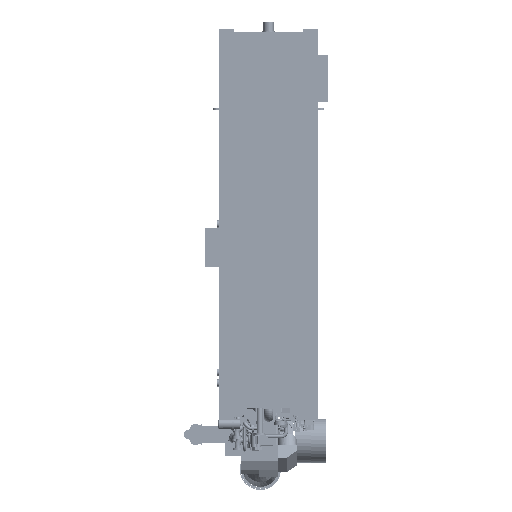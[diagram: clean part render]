
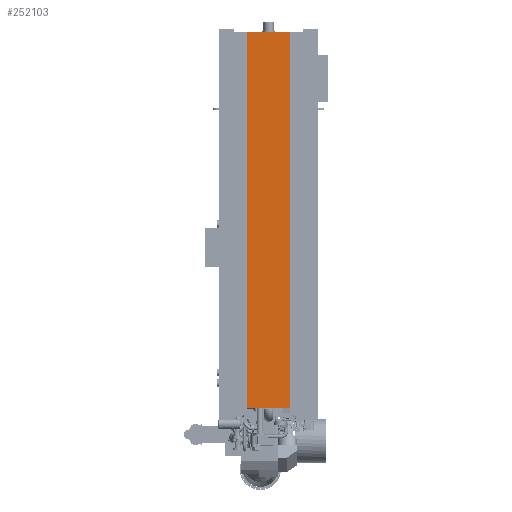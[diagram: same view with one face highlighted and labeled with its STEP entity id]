
A CAD part, front view. The second image highlights one B-rep face of the part: STEP entity #252103.
In plain terms, the highlighted planar face has unit normal (0, -1, 0).
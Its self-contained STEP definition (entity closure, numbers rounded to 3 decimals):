
#246727=DIRECTION('',(1.,0.,0.));
#246728=VECTOR('',#246727,1000.);
#246729=CARTESIAN_POINT('',(-500.,-1775.,4472.));
#246730=LINE('',#246729,#246728);
#247117=DIRECTION('',(1.,0.,0.));
#247118=VECTOR('',#247117,1000.);
#247119=CARTESIAN_POINT('',(-500.,-1775.,-4248.));
#247120=LINE('',#247119,#247118);
#247121=DIRECTION('',(0.,0.,1.));
#247122=VECTOR('',#247121,8720.);
#247123=CARTESIAN_POINT('',(-500.,-1775.,-4248.));
#247124=LINE('',#247123,#247122);
#247125=DIRECTION('',(0.,0.,-1.));
#247126=VECTOR('',#247125,8720.);
#247127=CARTESIAN_POINT('',(500.,-1775.,4472.));
#247128=LINE('',#247127,#247126);
#250429=CARTESIAN_POINT('',(-500.,-1775.,4472.));
#250431=VERTEX_POINT('',#250429);
#250432=CARTESIAN_POINT('',(500.,-1775.,4472.));
#250433=VERTEX_POINT('',#250432);
#251378=CARTESIAN_POINT('',(-500.,-1775.,-4248.));
#251379=VERTEX_POINT('',#251378);
#251380=CARTESIAN_POINT('',(500.,-1775.,-4248.));
#251381=VERTEX_POINT('',#251380);
#252089=CARTESIAN_POINT('',(-500.,-1775.,412.));
#252090=DIRECTION('',(0.,-1.,0.));
#252091=DIRECTION('',(1.,0.,0.));
#252092=AXIS2_PLACEMENT_3D('',#252089,#252090,#252091);
#252093=PLANE('',#252092);
#252095=ORIENTED_EDGE('',*,*,#252094,.F.);
#252097=ORIENTED_EDGE('',*,*,#252096,.T.);
#252098=ORIENTED_EDGE('',*,*,#251754,.T.);
#252100=ORIENTED_EDGE('',*,*,#252099,.T.);
#252101=EDGE_LOOP('',(#252095,#252097,#252098,#252100));
#252102=FACE_OUTER_BOUND('',#252101,.F.);
#252103=ADVANCED_FACE('',(#252102),#252093,.T.);
#251754=EDGE_CURVE('',#250431,#250433,#246730,.T.);
#252094=EDGE_CURVE('',#251379,#251381,#247120,.T.);
#252096=EDGE_CURVE('',#251379,#250431,#247124,.T.);
#252099=EDGE_CURVE('',#250433,#251381,#247128,.T.);
